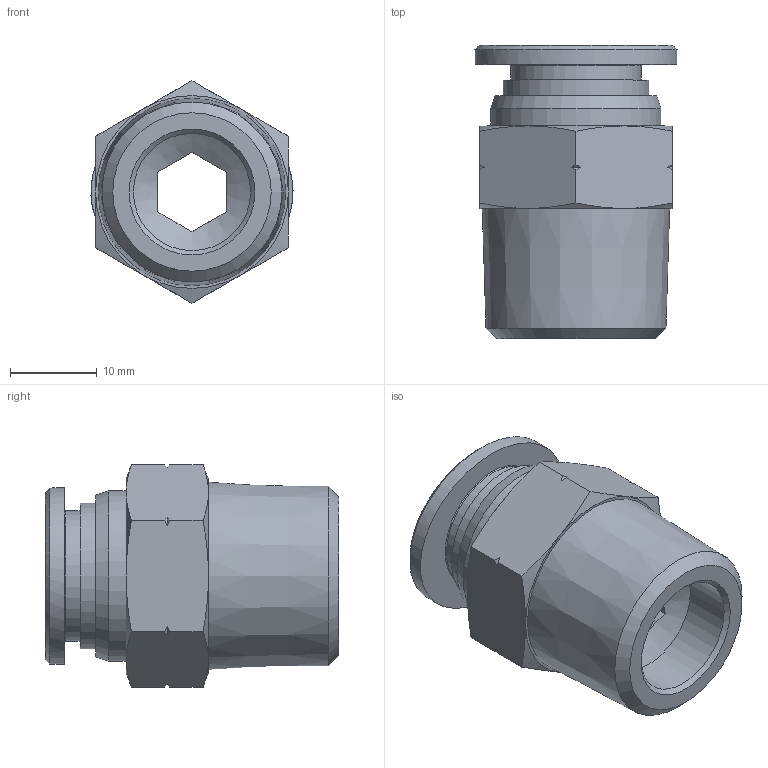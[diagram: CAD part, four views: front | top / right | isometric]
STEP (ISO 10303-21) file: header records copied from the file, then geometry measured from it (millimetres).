
FILE_DESCRIPTION((''),'2;1');
FILE_NAME('C:\Users\user0117\Desktop\김진일\홈페이지\1_2\Internet\GPC 1_2-N04U.stp','2019-09-11T15:41:04',('user0117'),(''),'Autodesk Inventor 2013','Autodesk Inventor 2013','');
FILE_SCHEMA(('AUTOMOTIVE_DESIGN { 1 0 10303 214 1 1 1 1 }'));
Length unit declared in the file: millimetre
Products named in the file (5): GPC 1_2-N04U; GPC BODY 1-2 N04(BRASS); G-COLLAR 1-2C; COLLAR G1-2C; SLEEVE G1-2
Assembly tree (4 placements, depth 3):
  GPC 1_2-N04U
    GPC BODY 1-2 N04(BRASS)
    G-COLLAR 1-2C
      COLLAR G1-2C
      SLEEVE G1-2
Bounding box: 23.28 x 33.8 x 25.66 mm (x, y, z)
Volume: 7619.8 mm3; surface area: 4801.7 mm2
Topology: 3 solids, 3 shells, 347 faces, 963 edges, 637 vertices
Faces by surface type: plane 292, cone 31, bspline 13, cylinder 11
Full cylindrical faces by diameter (mm): 13 x3, 13.5 x1, 15 x1, 16.8 x1, 19.6 x1
Entity records: 11147 total; most frequent: CARTESIAN_POINT 2401, ORIENTED_EDGE 1886, DIRECTION 1598, EDGE_CURVE 943, VECTOR 816, LINE 816, VERTEX_POINT 632, AXIS2_PLACEMENT_3D 391
